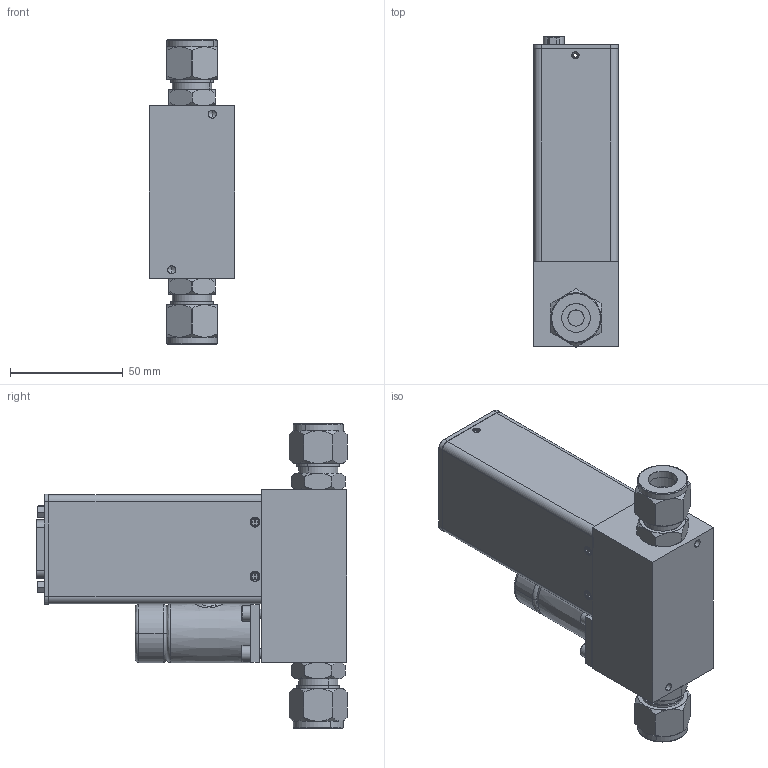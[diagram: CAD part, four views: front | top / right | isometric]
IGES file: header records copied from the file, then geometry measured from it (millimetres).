
Start section: SolidWorks IGES file using analytic representation for surfaces
Global section: file name: G:\Engineering\CAD MODELS FOR SALES\CAD MODEL STORAGE\SLA\SLA5850\IGES\SLA5850-S-1P-1-B-REVB.IGS; native system: SolidWorks 2023; preprocessor: SolidWorks 2023; author: CFehr; date: 240322.101547; units: inch
Bounding box: 37.72 x 137.52 x 134.77 mm (x, y, z)
Surface area: 89456.3 mm2 (no closed solid volume)
Topology: 0 solids, 0 shells, 1173 faces, 13861 edges, 13847 vertices
Faces by surface type: bspline 634, revolution 539
